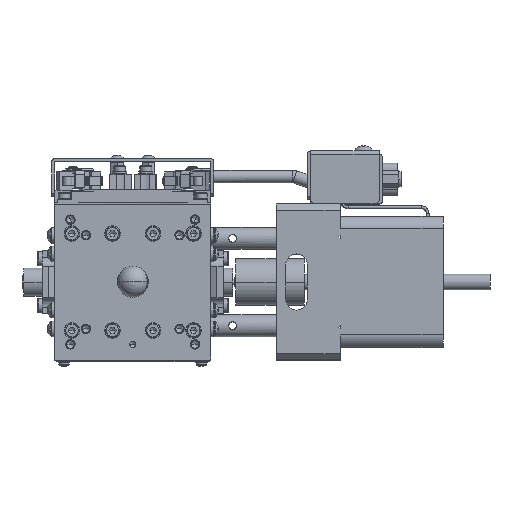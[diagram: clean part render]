
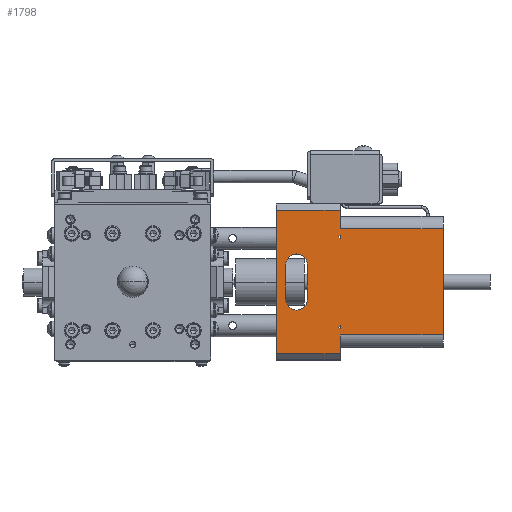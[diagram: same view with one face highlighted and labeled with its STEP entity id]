
A CAD part, top view. The second image highlights one B-rep face of the part: STEP entity #1798.
In plain terms, the highlighted planar face has unit normal (0, 0, 1).
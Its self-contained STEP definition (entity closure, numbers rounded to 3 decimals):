
#1798=ADVANCED_FACE('',(#20098,#20099,#20100,#20101),#20097,.T.);
#20097=PLANE('',#46597);
#20098=FACE_OUTER_BOUND('',#46598,.T.);
#20099=FACE_BOUND('',#46599,.T.);
#20100=FACE_BOUND('',#46600,.T.);
#20101=FACE_BOUND('',#46601,.T.);
#46594=CARTESIAN_POINT('',(40.65,-27.6,29.));
#46595=DIRECTION('',(0.,0.,1.));
#46596=DIRECTION('',(1.,0.,0.));
#46597=AXIS2_PLACEMENT_3D('',#46594,#46595,#46596);
#46598=EDGE_LOOP('',(#67195,#67196,#67197,#67198,#67199,#67200,#67201,#67202));
#46599=EDGE_LOOP('',(#67203,#67204,#67205));
#46600=EDGE_LOOP('',(#67206,#67207,#67208));
#46601=EDGE_LOOP('',(#67209,#67210,#67211,#67212));
#67195=ORIENTED_EDGE('',*,*,#79490,.F.);
#67196=ORIENTED_EDGE('',*,*,#79549,.T.);
#67197=ORIENTED_EDGE('',*,*,#79550,.T.);
#67198=ORIENTED_EDGE('',*,*,#79551,.T.);
#67199=ORIENTED_EDGE('',*,*,#79038,.F.);
#67200=ORIENTED_EDGE('',*,*,#79101,.T.);
#67201=ORIENTED_EDGE('',*,*,#79457,.F.);
#67202=ORIENTED_EDGE('',*,*,#79095,.T.);
#67203=ORIENTED_EDGE('',*,*,#79552,.T.);
#67204=ORIENTED_EDGE('',*,*,#79553,.T.);
#67205=ORIENTED_EDGE('',*,*,#79554,.T.);
#67206=ORIENTED_EDGE('',*,*,#79533,.T.);
#67207=ORIENTED_EDGE('',*,*,#79555,.T.);
#67208=ORIENTED_EDGE('',*,*,#79556,.T.);
#67209=ORIENTED_EDGE('',*,*,#79029,.T.);
#67210=ORIENTED_EDGE('',*,*,#77278,.T.);
#67211=ORIENTED_EDGE('',*,*,#79027,.F.);
#67212=ORIENTED_EDGE('',*,*,#77280,.T.);
#77278=EDGE_CURVE('',#98959,#98952,#98960,.T.);
#77280=EDGE_CURVE('',#98972,#98973,#98974,.T.);
#79027=EDGE_CURVE('',#98972,#98952,#110665,.T.);
#79029=EDGE_CURVE('',#98973,#98959,#110677,.T.);
#79038=EDGE_CURVE('',#110739,#110740,#110741,.T.);
#79095=EDGE_CURVE('',#111134,#111126,#111135,.T.);
#79101=EDGE_CURVE('',#110739,#111166,#111173,.T.);
#79457=EDGE_CURVE('',#111134,#111166,#113588,.T.);
#79490=EDGE_CURVE('',#113805,#111126,#113812,.T.);
#79533=EDGE_CURVE('',#114102,#114094,#114103,.T.);
#79549=EDGE_CURVE('',#113805,#114212,#114213,.T.);
#79550=EDGE_CURVE('',#114212,#114219,#114220,.T.);
#79551=EDGE_CURVE('',#114219,#110740,#114226,.T.);
#79552=EDGE_CURVE('',#114232,#114233,#114234,.T.);
#79553=EDGE_CURVE('',#114233,#114240,#114241,.T.);
#79554=EDGE_CURVE('',#114240,#114232,#114247,.T.);
#79555=EDGE_CURVE('',#114094,#114253,#114254,.T.);
#79556=EDGE_CURVE('',#114253,#114102,#114260,.T.);
#98952=VERTEX_POINT('',#145722);
#98959=VERTEX_POINT('',#145726);
#98960=CIRCLE('',#145730,3.5);
#98972=VERTEX_POINT('',#145734);
#98973=VERTEX_POINT('',#145735);
#98974=CIRCLE('',#145739,3.5);
#110665=LINE('',#152962,#152963);
#110677=LINE('',#152969,#152970);
#110739=VERTEX_POINT('',#153006);
#110740=VERTEX_POINT('',#153007);
#110741=LINE('',#153008,#153009);
#111126=VERTEX_POINT('',#153234);
#111134=VERTEX_POINT('',#153239);
#111135=LINE('',#153240,#153241);
#111166=VERTEX_POINT('',#153256);
#111173=LINE('',#153260,#153261);
#113588=LINE('',#154837,#154838);
#113805=VERTEX_POINT('',#154974);
#113812=LINE('',#154979,#154980);
#114094=VERTEX_POINT('',#155157);
#114102=VERTEX_POINT('',#155162);
#114103=LINE('',#155163,#155164);
#114212=VERTEX_POINT('',#155234);
#114213=LINE('',#155235,#155236);
#114219=VERTEX_POINT('',#155238);
#114220=LINE('',#155239,#155240);
#114226=LINE('',#155242,#155243);
#114232=VERTEX_POINT('',#155245);
#114233=VERTEX_POINT('',#155246);
#114234=LINE('',#155247,#155248);
#114240=VERTEX_POINT('',#155250);
#114241=LINE('',#155251,#155252);
#114247=LINE('',#155254,#155255);
#114253=VERTEX_POINT('',#155257);
#114254=LINE('',#155258,#155259);
#114260=LINE('',#155261,#155262);
#145722=CARTESIAN_POINT('',(56.,5.5,29.));
#145726=CARTESIAN_POINT('',(49.,5.5,29.));
#145727=CARTESIAN_POINT('',(52.5,5.5,29.));
#145728=DIRECTION('',(0.,0.,-1.));
#145729=DIRECTION('',(-1.,0.,0.));
#145730=AXIS2_PLACEMENT_3D('',#145727,#145728,#145729);
#145734=CARTESIAN_POINT('',(56.,-5.5,29.));
#145735=CARTESIAN_POINT('',(49.,-5.5,29.));
#145736=CARTESIAN_POINT('',(52.5,-5.5,29.));
#145737=DIRECTION('',(0.,0.,-1.));
#145738=DIRECTION('',(-1.,0.,0.));
#145739=AXIS2_PLACEMENT_3D('',#145736,#145737,#145738);
#152962=CARTESIAN_POINT('',(56.,-5.5,29.));
#152963=VECTOR('',#152964,11.);
#152964=DIRECTION('',(0.,1.,0.));
#152969=CARTESIAN_POINT('',(49.,-5.5,29.));
#152970=VECTOR('',#152971,11.);
#152971=DIRECTION('',(0.,1.,0.));
#153006=CARTESIAN_POINT('',(66.5,23.,29.));
#153007=CARTESIAN_POINT('',(66.5,17.,29.));
#153008=CARTESIAN_POINT('',(66.5,23.,29.));
#153009=VECTOR('',#153010,6.);
#153010=DIRECTION('',(0.,-1.,0.));
#153234=CARTESIAN_POINT('',(66.5,-23.,29.));
#153239=CARTESIAN_POINT('',(46.,-23.,29.));
#153240=CARTESIAN_POINT('',(46.,-23.,29.));
#153241=VECTOR('',#153242,20.5);
#153242=DIRECTION('',(1.,0.,0.));
#153256=CARTESIAN_POINT('',(46.,23.,29.));
#153260=CARTESIAN_POINT('',(66.5,23.,29.));
#153261=VECTOR('',#153262,20.5);
#153262=DIRECTION('',(-1.,0.,0.));
#154837=CARTESIAN_POINT('',(46.,-23.,29.));
#154838=VECTOR('',#154839,46.);
#154839=DIRECTION('',(0.,1.,0.));
#154974=CARTESIAN_POINT('',(66.5,-17.,29.));
#154979=CARTESIAN_POINT('',(66.5,-17.,29.));
#154980=VECTOR('',#154981,6.);
#154981=DIRECTION('',(0.,-1.,0.));
#155157=CARTESIAN_POINT('',(66.5,14.,29.));
#155162=CARTESIAN_POINT('',(66.5,15.,29.));
#155163=CARTESIAN_POINT('',(66.5,15.,29.));
#155164=VECTOR('',#155165,1.);
#155165=DIRECTION('',(0.,-1.,0.));
#155234=CARTESIAN_POINT('',(99.5,-17.,29.));
#155235=CARTESIAN_POINT('',(66.5,-17.,29.));
#155236=VECTOR('',#155237,33.);
#155237=DIRECTION('',(1.,0.,0.));
#155238=CARTESIAN_POINT('',(99.5,17.,29.));
#155239=CARTESIAN_POINT('',(99.5,-17.,29.));
#155240=VECTOR('',#155241,34.);
#155241=DIRECTION('',(0.,1.,0.));
#155242=CARTESIAN_POINT('',(99.5,17.,29.));
#155243=VECTOR('',#155244,33.);
#155244=DIRECTION('',(-1.,0.,0.));
#155245=CARTESIAN_POINT('',(66.,-14.5,29.));
#155246=CARTESIAN_POINT('',(66.5,-14.,29.));
#155247=CARTESIAN_POINT('',(66.,-14.5,29.));
#155248=VECTOR('',#155249,0.707);
#155249=DIRECTION('',(0.707,0.707,0.));
#155250=CARTESIAN_POINT('',(66.5,-15.,29.));
#155251=CARTESIAN_POINT('',(66.5,-14.,29.));
#155252=VECTOR('',#155253,1.);
#155253=DIRECTION('',(0.,-1.,0.));
#155254=CARTESIAN_POINT('',(66.5,-15.,29.));
#155255=VECTOR('',#155256,0.707);
#155256=DIRECTION('',(-0.707,0.707,0.));
#155257=CARTESIAN_POINT('',(66.,14.5,29.));
#155258=CARTESIAN_POINT('',(66.5,14.,29.));
#155259=VECTOR('',#155260,0.707);
#155260=DIRECTION('',(-0.707,0.707,0.));
#155261=CARTESIAN_POINT('',(66.,14.5,29.));
#155262=VECTOR('',#155263,0.707);
#155263=DIRECTION('',(0.707,0.707,0.));
